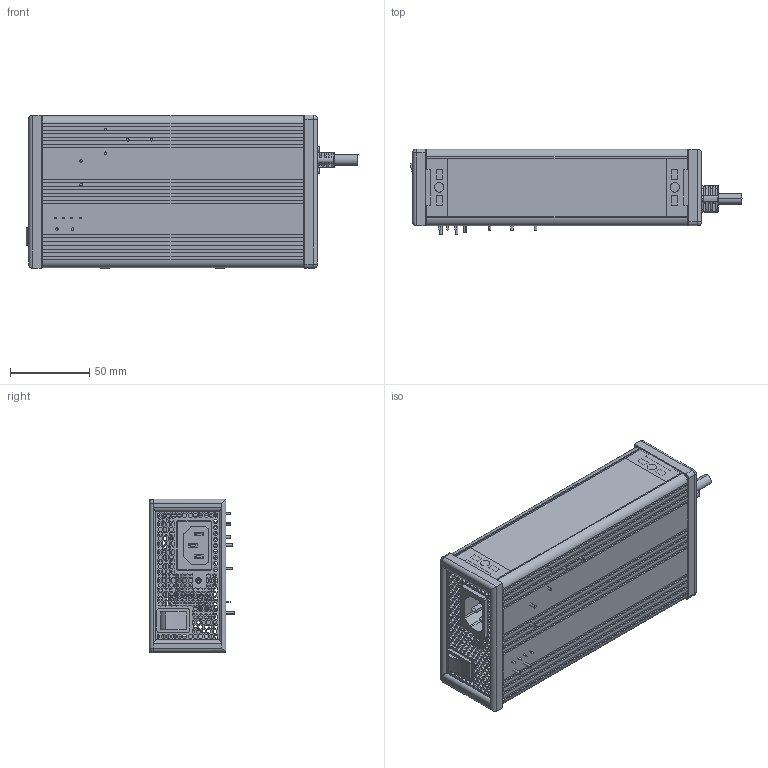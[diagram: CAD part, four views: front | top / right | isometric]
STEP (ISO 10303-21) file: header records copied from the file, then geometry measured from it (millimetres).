
FILE_DESCRIPTION(('Creo Elements/Direct Modeling STEP Export'),'2;1');
FILE_NAME('NPB-120240-线材.stp','2021-07-27T11:14:40',(''),(''),'PTC Creo Elements/Direct Modeling STEP processor for AP214 (Solid Model)','PTC Creo Elements/Direct Modeling 19.0A 04-Oct-2014 (C) Parametric Technology GmbH','');
FILE_SCHEMA(('AUTOMOTIVE_DESIGN { 1 0 10303 214 1 1 1 1 }'));
Length unit declared in the file: millimetre
Products named in the file (143): 输入面板; 1N_PRT.PRT; 螺丝.2.1; 螺丝.2; 螺丝.1; 螺丝.3; 螺丝11; 输出线无风扇0224; SR_0331; 螺丝; 面板; PCBA; PCBD; PCBB; PCBC; PCB; 1GG1HS-SZ143; 1GG1HS-SZ142; 1GG4CU-SZ039-old; 1GG1HS-SZ142-1; 11; 1GG1HS-SZ140-old; 1GG1HS-SZ139; 1GG4CU-SZ041; HS2; 1GG1HS-SZ140; 1GG4CU-SZ039.1; 1GG; CASE; 六角螺母; TU-301-SP-STA715_23.PRT; TN-M10_16.PRT; GP-TU301-Y5S_3.PRT; GP-TU301-Y10L_3.PRT; GP-TU-301-A4_3_1.PRT; GP-TU-301-A4_3_2.PRT; GP-TU-301-A4_3.ASM; GP-TU301-D4_3.PRT; TU-301-SP-STA715-AD4-M10_ASM_5.ASM; TU-301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
Assembly tree (150 placements, depth 11):
  NPB-240
    装配1
      装配
        ON-OFF
        D板零件
          C3
        A板零件
          C3.1.2
          TR5
          C4
          热敏
          X电容
          X电容.1
          RY
          压敏
          Y.1.1.1
          Y.1.1.1.1
          Y.1.1
          Y.1.1.1.1.1.1.1
          Y.1.1.1.1.1.1
          Y.1.1.1.1.1
          Y.1.1.1.1.1.1.1.1
          C3.1.1.1
          C3
          C3.1
          C3.1.1
          TR4
          TR3
          TR2
          C2
          C1.1.1.1.1
          C1.1.1.1
          C1.1.1
          C1.1
          C1
          MOS
            1GG2MHS052A.2
            1GG2MHS052A.1
            1GG2MHS052A
            TO220-1.2.1.1.1.1.1.1.1
            TO220-1.2.1.1.1.1.1
            TO220-1.2
            TO220-1.2.1
            TO220-1.2.1.1
            TO220-1.2.1.1.1
            TO220-1.2.1.1.1.1.1.1
            TO220-1.2.1.1.1.1
          TR1
          TR5.1
        B板零件
          C3.1
          PCB.ASM
            ZD2.ASM
              713984304.ASM  x2
              713987184.ASM
              713987344.ASM
            C16.ASM
              R1206.ASM
              818389776.ASM
            CN2.ASM
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Bounding box: 209.98 x 54.25 x 97.18 mm (x, y, z)
Volume: 326165 mm3; surface area: 331354.8 mm2
Topology: 99 solids, 99 shells, 6174 faces, 17132 edges, 11334 vertices
Faces by surface type: plane 5074, cylinder 924, torus 91, cone 52, sphere 24, bspline 8, extrusion 1
Entity records: 201456 total; most frequent: CARTESIAN_POINT 39627, ORIENTED_EDGE 33626, DIRECTION 29778, EDGE_CURVE 16810, VECTOR 14516, LINE 14515, VERTEX_POINT 11126, AXIS2_PLACEMENT_3D 7631
